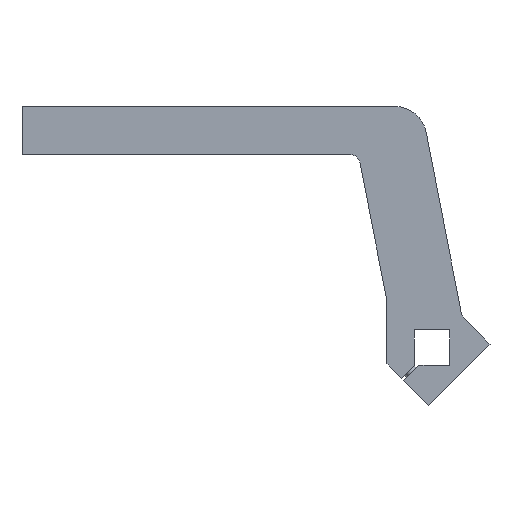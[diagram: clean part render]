
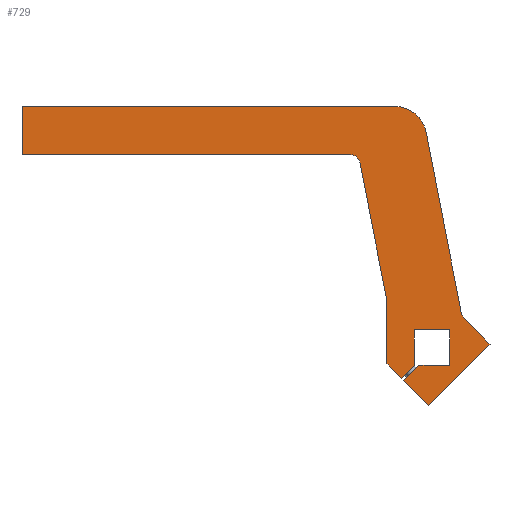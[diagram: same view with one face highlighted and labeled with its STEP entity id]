
A CAD part, left-side view. The second image highlights one B-rep face of the part: STEP entity #729.
In plain terms, the highlighted planar face has unit normal (-1, 0, 0).
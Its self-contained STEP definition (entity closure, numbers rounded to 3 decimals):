
#47=PLANE('',#806);
#69=FACE_OUTER_BOUND('',#118,.T.);
#118=EDGE_LOOP('',(#544,#545,#546,#547,#548,#549,#550,#551,#552,#553,#554,
#555,#556,#557,#558,#559,#560,#561,#562,#563));
#163=LINE('',#1073,#229);
#168=LINE('',#1088,#234);
#174=LINE('',#1129,#240);
#178=LINE('',#1141,#244);
#179=LINE('',#1144,#245);
#180=LINE('',#1145,#246);
#181=LINE('',#1147,#247);
#182=LINE('',#1149,#248);
#183=LINE('',#1151,#249);
#184=LINE('',#1153,#250);
#185=LINE('',#1155,#251);
#186=LINE('',#1157,#252);
#187=LINE('',#1159,#253);
#188=LINE('',#1161,#254);
#189=LINE('',#1163,#255);
#190=LINE('',#1164,#256);
#229=VECTOR('',#861,10.);
#234=VECTOR('',#874,10.);
#240=VECTOR('',#914,10.);
#244=VECTOR('',#926,10.);
#245=VECTOR('',#929,10.);
#246=VECTOR('',#930,10.);
#247=VECTOR('',#931,10.);
#248=VECTOR('',#932,10.);
#249=VECTOR('',#933,10.);
#250=VECTOR('',#934,10.);
#251=VECTOR('',#935,10.);
#252=VECTOR('',#936,10.);
#253=VECTOR('',#937,10.);
#254=VECTOR('',#938,10.);
#255=VECTOR('',#939,10.);
#256=VECTOR('',#940,10.);
#293=CIRCLE('',#778,6.);
#295=CIRCLE('',#782,6.);
#310=CIRCLE('',#799,20.);
#312=CIRCLE('',#803,20.);
#329=VERTEX_POINT('',#1063);
#330=VERTEX_POINT('',#1064);
#333=VERTEX_POINT('',#1072);
#335=VERTEX_POINT('',#1078);
#336=VERTEX_POINT('',#1079);
#339=VERTEX_POINT('',#1087);
#354=VERTEX_POINT('',#1119);
#355=VERTEX_POINT('',#1120);
#358=VERTEX_POINT('',#1131);
#359=VERTEX_POINT('',#1132);
#362=VERTEX_POINT('',#1143);
#363=VERTEX_POINT('',#1146);
#364=VERTEX_POINT('',#1148);
#365=VERTEX_POINT('',#1150);
#366=VERTEX_POINT('',#1152);
#367=VERTEX_POINT('',#1154);
#368=VERTEX_POINT('',#1156);
#369=VERTEX_POINT('',#1158);
#370=VERTEX_POINT('',#1160);
#371=VERTEX_POINT('',#1162);
#397=EDGE_CURVE('',#329,#330,#293,.T.);
#401=EDGE_CURVE('',#333,#330,#163,.T.);
#404=EDGE_CURVE('',#335,#336,#295,.T.);
#408=EDGE_CURVE('',#339,#336,#168,.T.);
#424=EDGE_CURVE('',#354,#355,#310,.T.);
#429=EDGE_CURVE('',#335,#355,#174,.T.);
#430=EDGE_CURVE('',#358,#359,#312,.T.);
#435=EDGE_CURVE('',#329,#359,#178,.T.);
#436=EDGE_CURVE('',#358,#362,#179,.T.);
#437=EDGE_CURVE('',#362,#339,#180,.T.);
#438=EDGE_CURVE('',#354,#363,#181,.T.);
#439=EDGE_CURVE('',#363,#364,#182,.T.);
#440=EDGE_CURVE('',#364,#365,#183,.T.);
#441=EDGE_CURVE('',#365,#366,#184,.T.);
#442=EDGE_CURVE('',#366,#367,#185,.T.);
#443=EDGE_CURVE('',#367,#368,#186,.T.);
#444=EDGE_CURVE('',#368,#369,#187,.T.);
#445=EDGE_CURVE('',#369,#370,#188,.T.);
#446=EDGE_CURVE('',#370,#371,#189,.T.);
#447=EDGE_CURVE('',#371,#333,#190,.T.);
#544=ORIENTED_EDGE('',*,*,#430,.F.);
#545=ORIENTED_EDGE('',*,*,#436,.T.);
#546=ORIENTED_EDGE('',*,*,#437,.T.);
#547=ORIENTED_EDGE('',*,*,#408,.T.);
#548=ORIENTED_EDGE('',*,*,#404,.F.);
#549=ORIENTED_EDGE('',*,*,#429,.T.);
#550=ORIENTED_EDGE('',*,*,#424,.F.);
#551=ORIENTED_EDGE('',*,*,#438,.T.);
#552=ORIENTED_EDGE('',*,*,#439,.T.);
#553=ORIENTED_EDGE('',*,*,#440,.T.);
#554=ORIENTED_EDGE('',*,*,#441,.T.);
#555=ORIENTED_EDGE('',*,*,#442,.T.);
#556=ORIENTED_EDGE('',*,*,#443,.T.);
#557=ORIENTED_EDGE('',*,*,#444,.T.);
#558=ORIENTED_EDGE('',*,*,#445,.T.);
#559=ORIENTED_EDGE('',*,*,#446,.T.);
#560=ORIENTED_EDGE('',*,*,#447,.T.);
#561=ORIENTED_EDGE('',*,*,#401,.T.);
#562=ORIENTED_EDGE('',*,*,#397,.F.);
#563=ORIENTED_EDGE('',*,*,#435,.T.);
#729=ADVANCED_FACE('',(#69),#47,.T.);
#778=AXIS2_PLACEMENT_3D('',#1065,#853,#854);
#782=AXIS2_PLACEMENT_3D('',#1080,#866,#867);
#799=AXIS2_PLACEMENT_3D('',#1121,#905,#906);
#803=AXIS2_PLACEMENT_3D('',#1133,#917,#918);
#806=AXIS2_PLACEMENT_3D('',#1142,#927,#928);
#853=DIRECTION('center_axis',(-1.,0.,0.));
#854=DIRECTION('ref_axis',(0.,0.883,-0.469));
#861=DIRECTION('',(0.,0.707,0.707));
#866=DIRECTION('center_axis',(-1.,0.,0.));
#867=DIRECTION('ref_axis',(0.,-0.636,0.772));
#874=DIRECTION('',(0.,-1.,0.));
#905=DIRECTION('center_axis',(-1.,0.,0.));
#906=DIRECTION('ref_axis',(0.,-0.995,0.096));
#914=DIRECTION('',(0.,-0.191,-0.982));
#917=DIRECTION('center_axis',(1.,0.,0.));
#918=DIRECTION('ref_axis',(0.,-0.636,0.772));
#926=DIRECTION('',(0.,0.191,0.982));
#927=DIRECTION('center_axis',(-1.,0.,0.));
#928=DIRECTION('ref_axis',(0.,0.,1.));
#929=DIRECTION('',(0.,1.,0.));
#930=DIRECTION('',(0.,0.,-1.));
#931=DIRECTION('',(0.,0.,-1.));
#932=DIRECTION('',(0.,-0.707,-0.707));
#933=DIRECTION('',(0.,-0.707,0.707));
#934=DIRECTION('',(0.,0.,1.));
#935=DIRECTION('',(0.,-1.,0.));
#936=DIRECTION('',(0.,0.,-1.));
#937=DIRECTION('',(0.,1.,0.));
#938=DIRECTION('',(0.,0.707,-0.707));
#939=DIRECTION('',(0.,-0.707,-0.707));
#940=DIRECTION('',(0.,-0.707,0.707));
#1063=CARTESIAN_POINT('',(-12.5,-18.256,21.378));
#1064=CARTESIAN_POINT('',(-12.5,-19.903,18.28));
#1065=CARTESIAN_POINT('Origin',(-12.5,-24.146,22.523));
#1072=CARTESIAN_POINT('',(-12.5,-36.062,2.121));
#1073=CARTESIAN_POINT('',(-12.5,-19.092,19.092));
#1078=CARTESIAN_POINT('',(-12.5,44.794,115.145));
#1079=CARTESIAN_POINT('',(-12.5,50.683,120.));
#1080=CARTESIAN_POINT('Origin',(-12.5,50.683,114.));
#1087=CARTESIAN_POINT('',(-12.5,255.,120.));
#1088=CARTESIAN_POINT('',(-12.5,45.737,120.));
#1119=CARTESIAN_POINT('',(-12.5,28.,26.823));
#1120=CARTESIAN_POINT('',(-12.5,28.367,30.639));
#1121=CARTESIAN_POINT('Origin',(-12.5,48.,26.823));
#1129=CARTESIAN_POINT('',(-12.5,28.,28.749));
#1131=CARTESIAN_POINT('',(-12.5,23.232,150.));
#1132=CARTESIAN_POINT('',(-12.5,3.599,133.816));
#1133=CARTESIAN_POINT('Origin',(-12.5,23.232,130.));
#1141=CARTESIAN_POINT('',(-12.5,6.745,150.));
#1142=CARTESIAN_POINT('Origin',(-12.5,91.131,102.122));
#1143=CARTESIAN_POINT('',(-12.5,255.,150.));
#1144=CARTESIAN_POINT('',(-12.5,255.,150.));
#1145=CARTESIAN_POINT('',(-12.5,255.,120.));
#1146=CARTESIAN_POINT('',(-12.5,28.,-10.184));
#1147=CARTESIAN_POINT('',(-12.5,28.,-10.184));
#1148=CARTESIAN_POINT('',(-12.5,19.092,-19.092));
#1149=CARTESIAN_POINT('',(-12.5,19.092,-19.092));
#1150=CARTESIAN_POINT('',(-12.5,11.,-11.));
#1151=CARTESIAN_POINT('',(-12.5,14.93,-14.93));
#1152=CARTESIAN_POINT('',(-12.5,11.,11.));
#1153=CARTESIAN_POINT('',(-12.5,11.,11.));
#1154=CARTESIAN_POINT('',(-12.5,-11.,11.));
#1155=CARTESIAN_POINT('',(-12.5,-11.,11.));
#1156=CARTESIAN_POINT('',(-12.5,-11.,-11.));
#1157=CARTESIAN_POINT('',(-12.5,-11.,56.561));
#1158=CARTESIAN_POINT('',(-12.5,8.172,-11.));
#1159=CARTESIAN_POINT('',(-12.5,40.065,-11.));
#1160=CARTESIAN_POINT('',(-12.5,17.678,-20.506));
#1161=CARTESIAN_POINT('',(-12.5,0.631,-3.459));
#1162=CARTESIAN_POINT('',(-12.5,2.121,-36.062));
#1163=CARTESIAN_POINT('',(-12.5,19.092,-19.092));
#1164=CARTESIAN_POINT('',(-12.5,-36.062,2.121));
